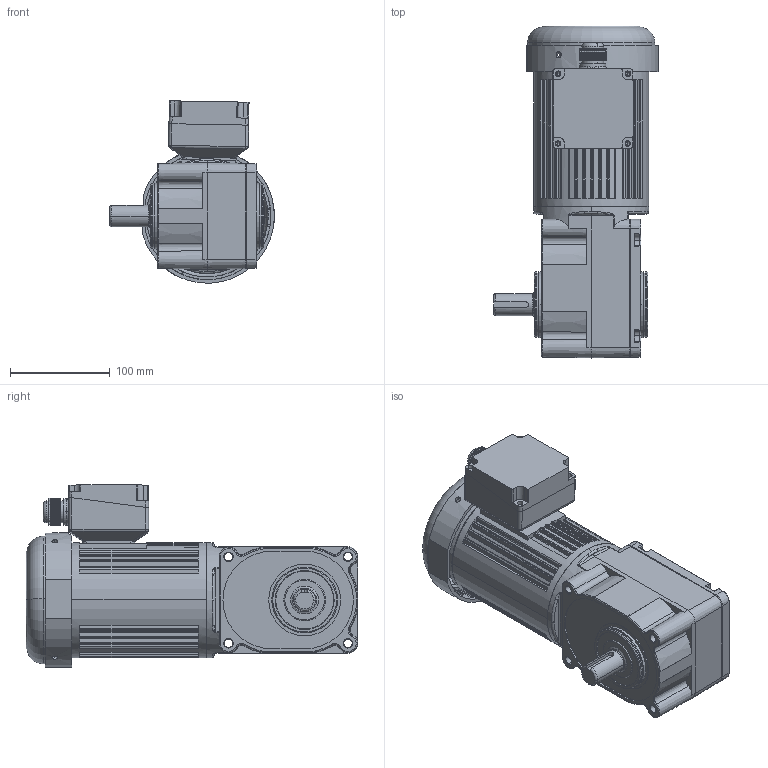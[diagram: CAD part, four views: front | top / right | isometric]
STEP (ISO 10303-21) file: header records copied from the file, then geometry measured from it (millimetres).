
FILE_DESCRIPTION (( 'STEP AP203' ), '1' );
FILE_NAME ('ZDF3-22A5K-60K-200-S3.STEP', '2020-05-05T06:17:41', ( '' ), ( '' ), 'SwSTEP 2.0', 'SolidWorks 2019', '' );
FILE_SCHEMA (( 'CONFIG_CONTROL_DESIGN' ));
Length unit declared in the file: millimetre
Products named in the file (9): 100W-fengzhao; 諉芛; 100W綴傷裔; ZDF3-22A5K-60K-200-S3(B); 諉盄碟裔; 200W儂褲12.23; ZDF3-22A5K-60K-200-S3; 釱菜12.24; 諉盄碟釱12.23
Assembly tree (8 placements, depth 2):
  ZDF3-22A5K-60K-200-S3
    ZDF3-22A5K-60K-200-S3(B)
    200W儂褲12.23
    釱菜12.24
    諉盄碟釱12.23
    諉芛
    諉盄碟裔
    100W綴傷裔
    100W-fengzhao
Bounding box: 165.5 x 333.17 x 183.1 mm (x, y, z)
Volume: 2066893.4 mm3; surface area: 378073.2 mm2
Topology: 8 solids, 8 shells, 1590 faces, 4217 edges, 2681 vertices
Faces by surface type: cylinder 926, plane 420, cone 104, torus 82, sphere 30, bspline 28
Entity records: 54838 total; most frequent: CARTESIAN_POINT 13132, DIRECTION 9040, ORIENTED_EDGE 8366, EDGE_CURVE 4183, AXIS2_PLACEMENT_3D 3607, VERTEX_POINT 2681, CIRCLE 2034, EDGE_LOOP 1942
